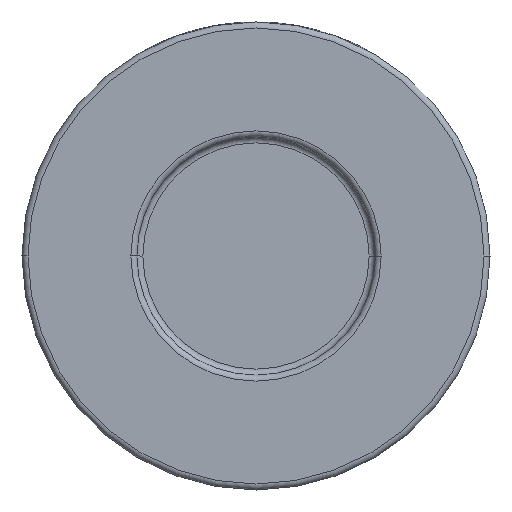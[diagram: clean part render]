
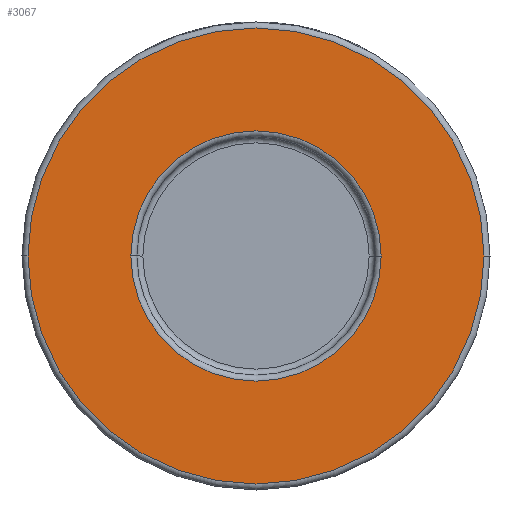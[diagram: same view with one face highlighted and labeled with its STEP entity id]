
A CAD part, front view. The second image highlights one B-rep face of the part: STEP entity #3067.
In plain terms, the highlighted planar face has unit normal (0, -1, 0).
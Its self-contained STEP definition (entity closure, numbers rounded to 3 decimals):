
#171 = VERTEX_POINT ( 'NONE', #618 ) ;
#298 = CARTESIAN_POINT ( 'NONE',  ( 0., -29., 0. ) ) ;
#314 = DIRECTION ( 'NONE',  ( 1., 0., 0. ) ) ;
#339 = ORIENTED_EDGE ( 'NONE', *, *, #679, .T. ) ;
#359 = FACE_BOUND ( 'NONE', #520, .T. ) ;
#520 = EDGE_LOOP ( 'NONE', ( #931, #339 ) ) ;
#618 = CARTESIAN_POINT ( 'NONE',  ( -20.85, -29., 0. ) ) ;
#679 = EDGE_CURVE ( 'NONE', #171, #3672, #1825, .T. ) ;
#931 = ORIENTED_EDGE ( 'NONE', *, *, #3530, .T. ) ;
#1011 = AXIS2_PLACEMENT_3D ( 'NONE', #3227, #3543, #314 ) ;
#1296 = VERTEX_POINT ( 'NONE', #1586 ) ;
#1410 = EDGE_LOOP ( 'NONE', ( #3675, #4155 ) ) ;
#1461 = AXIS2_PLACEMENT_3D ( 'NONE', #1960, #2683, #4123 ) ;
#1534 = CARTESIAN_POINT ( 'NONE',  ( 0., -29., 0. ) ) ;
#1586 = CARTESIAN_POINT ( 'NONE',  ( 38., -29., 0. ) ) ;
#1742 = DIRECTION ( 'NONE',  ( 1., 0., 0. ) ) ;
#1825 = CIRCLE ( 'NONE', #3626, 20.85 ) ;
#1858 = CARTESIAN_POINT ( 'NONE',  ( -38., -29., 0. ) ) ;
#1872 = DIRECTION ( 'NONE',  ( 0., -1., 0. ) ) ;
#1960 = CARTESIAN_POINT ( 'NONE',  ( 0., -29., 0. ) ) ;
#1995 = CIRCLE ( 'NONE', #1461, 38. ) ;
#2243 = DIRECTION ( 'NONE',  ( 1., 0., 0. ) ) ;
#2356 = EDGE_CURVE ( 'NONE', #1296, #2915, #3648, .T. ) ;
#2379 = AXIS2_PLACEMENT_3D ( 'NONE', #3531, #4238, #1742 ) ;
#2441 = EDGE_CURVE ( 'NONE', #2915, #1296, #1995, .T. ) ;
#2464 = PLANE ( 'NONE',  #1011 ) ;
#2505 = DIRECTION ( 'NONE',  ( 0., 1., 0. ) ) ;
#2683 = DIRECTION ( 'NONE',  ( 0., -1., 0. ) ) ;
#2909 = DIRECTION ( 'NONE',  ( 1., 0., 0. ) ) ;
#2915 = VERTEX_POINT ( 'NONE', #1858 ) ;
#3067 = ADVANCED_FACE ( 'NONE', ( #359, #4252 ), #2464, .T. ) ;
#3227 = CARTESIAN_POINT ( 'NONE',  ( 39., -29., 0. ) ) ;
#3350 = CIRCLE ( 'NONE', #2379, 20.85 ) ;
#3419 = AXIS2_PLACEMENT_3D ( 'NONE', #1534, #1872, #2243 ) ;
#3530 = EDGE_CURVE ( 'NONE', #3672, #171, #3350, .T. ) ;
#3531 = CARTESIAN_POINT ( 'NONE',  ( 0., -29., 0. ) ) ;
#3543 = DIRECTION ( 'NONE',  ( 0., -1., 0. ) ) ;
#3626 = AXIS2_PLACEMENT_3D ( 'NONE', #298, #2505, #2909 ) ;
#3644 = CARTESIAN_POINT ( 'NONE',  ( 20.85, -29., 0. ) ) ;
#3648 = CIRCLE ( 'NONE', #3419, 38. ) ;
#3672 = VERTEX_POINT ( 'NONE', #3644 ) ;
#3675 = ORIENTED_EDGE ( 'NONE', *, *, #2356, .T. ) ;
#4123 = DIRECTION ( 'NONE',  ( 1., 0., 0. ) ) ;
#4155 = ORIENTED_EDGE ( 'NONE', *, *, #2441, .T. ) ;
#4238 = DIRECTION ( 'NONE',  ( 0., 1., 0. ) ) ;
#4252 = FACE_OUTER_BOUND ( 'NONE', #1410, .T. ) ;
